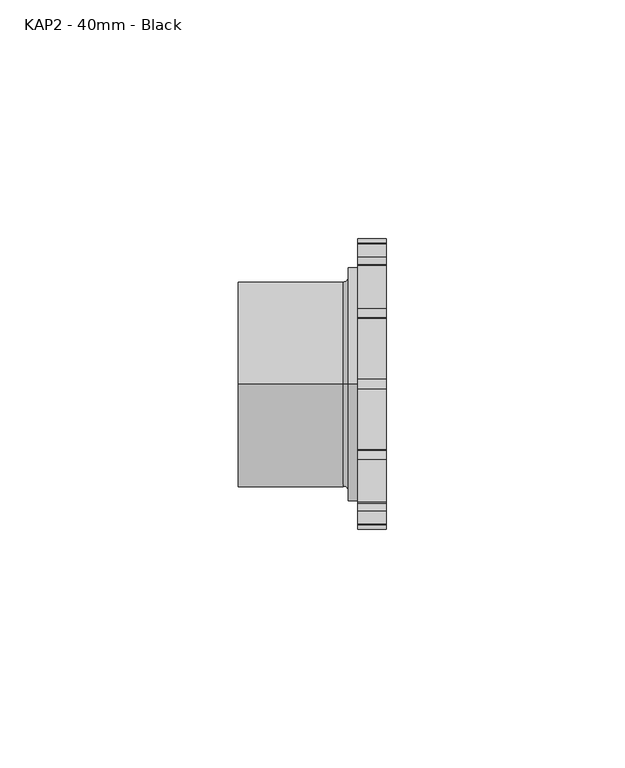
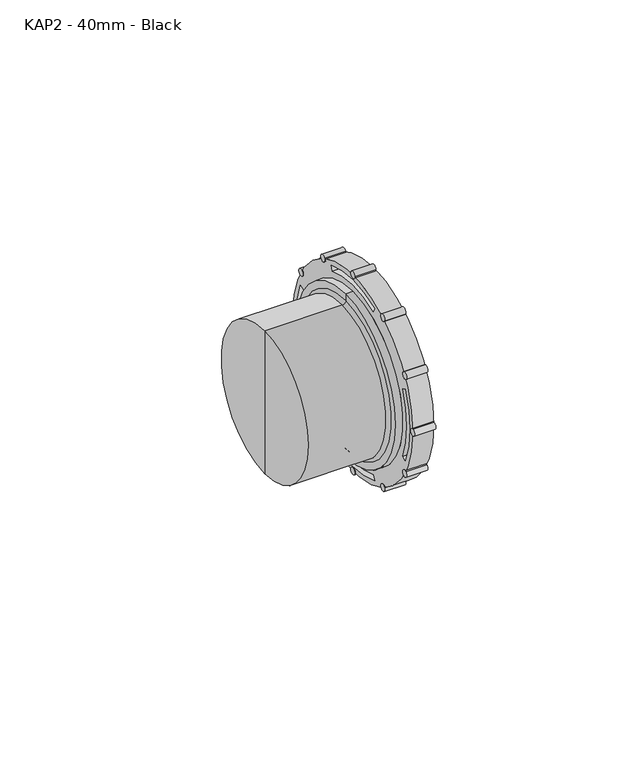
"""IFC4 building model written with IfcOpenShell, lengths in millimetres: pipe fitting geometry, MarleyPlumbingAndDrainage_PipeFitting_AccessPlug : KAP2 - 40mm - Black."""

from ifc_helpers import new_model, si_unit, point, frame, frame_2d, origin, place, context, project, spatial, polyline, circle_curve, ellipse_curve, trimmed, segment, composite_curve, outline, extrude, source, transform, mapped, element, save
from ifc_brep_helpers import plane_surface, cylinder_surface, revolved_surface, advanced_brep


def kap2_40mm_black_465b1ba6(model_context):
    return source(origin(), model_context, "Body", "SolidModel", [
        extrude(outline(composite_curve([segment(trimmed(circle_curve(frame_2d((25.5477494, 14.75)), 1.0), [point((25.0477494, 15.6160254))], [point((26.0477494, 13.8839746))], False, "CARTESIAN"), True, "CONTINUOUS"), segment(trimmed(circle_curve(frame_2d((25.5477494, 14.75)), 1.0), [point((26.0477494, 13.8839746))], [point((25.0477494, 15.6160254))], False, "CARTESIAN"), True, "CONTINUOUS")], self_intersect=False)), frame((-330.6858175, 0.0, 0.0), z_axis=(1.0, 0.0, 0.0), x_axis=(0.0, 1.0, 0.0)), (0.0, 0.0, 1.0), 6.0),
        extrude(outline(composite_curve([segment(trimmed(circle_curve(frame_2d((29.5, 0.0)), 1.0), [point((29.5, 1.0))], [point((29.5, -1.0))], False, "CARTESIAN"), True, "CONTINUOUS"), segment(trimmed(circle_curve(frame_2d((29.5, 0.0)), 1.0), [point((29.5, -1.0))], [point((29.5, 1.0))], False, "CARTESIAN"), True, "CONTINUOUS")], self_intersect=False)), frame((-330.6858175, 0.0, 0.0), z_axis=(1.0, 0.0, 0.0), x_axis=(0.0, 1.0, 0.0)), (0.0, 0.0, 1.0), 6.0),
        extrude(outline(composite_curve([segment(trimmed(circle_curve(frame_2d((25.5477494, -14.75)), 1.0), [point((26.0477494, -13.8839746))], [point((25.0477494, -15.6160254))], False, "CARTESIAN"), True, "CONTINUOUS"), segment(trimmed(circle_curve(frame_2d((25.5477494, -14.75)), 1.0), [point((25.0477494, -15.6160254))], [point((26.0477494, -13.8839746))], False, "CARTESIAN"), True, "CONTINUOUS")], self_intersect=False)), frame((-330.6858175, 0.0, 0.0), z_axis=(1.0, 0.0, 0.0), x_axis=(0.0, 1.0, 0.0)), (0.0, 0.0, 1.0), 6.0),
        extrude(outline(composite_curve([segment(trimmed(circle_curve(frame_2d((14.75, -25.5477494)), 1.0), [point((15.6160254, -25.0477494))], [point((13.8839746, -26.0477494))], False, "CARTESIAN"), True, "CONTINUOUS"), segment(trimmed(circle_curve(frame_2d((14.75, -25.5477494)), 1.0), [point((13.8839746, -26.0477494))], [point((15.6160254, -25.0477494))], False, "CARTESIAN"), True, "CONTINUOUS")], self_intersect=False)), frame((-330.6858175, 0.0, 0.0), z_axis=(1.0, 0.0, 0.0), x_axis=(0.0, 1.0, 0.0)), (0.0, 0.0, 1.0), 6.0),
        extrude(outline(composite_curve([segment(trimmed(circle_curve(frame_2d((0.0, -29.5)), 1.0), [point((1.0, -29.5))], [point((-1.0, -29.5))], False, "CARTESIAN"), True, "CONTINUOUS"), segment(trimmed(circle_curve(frame_2d((0.0, -29.5)), 1.0), [point((-1.0, -29.5))], [point((1.0, -29.5))], False, "CARTESIAN"), True, "CONTINUOUS")], self_intersect=False)), frame((-330.6858175, 0.0, 0.0), z_axis=(1.0, 0.0, 0.0), x_axis=(0.0, 1.0, 0.0)), (0.0, 0.0, 1.0), 6.0),
        extrude(outline(composite_curve([segment(trimmed(circle_curve(frame_2d((-14.75, -25.5477494)), 1.0), [point((-13.8839746, -26.0477494))], [point((-15.6160254, -25.0477494))], False, "CARTESIAN"), True, "CONTINUOUS"), segment(trimmed(circle_curve(frame_2d((-14.75, -25.5477494)), 1.0), [point((-15.6160254, -25.0477494))], [point((-13.8839746, -26.0477494))], False, "CARTESIAN"), True, "CONTINUOUS")], self_intersect=False)), frame((-330.6858175, 0.0, 0.0), z_axis=(1.0, 0.0, 0.0), x_axis=(0.0, 1.0, 0.0)), (0.0, 0.0, 1.0), 6.0),
        extrude(outline(composite_curve([segment(trimmed(circle_curve(frame_2d((-25.5477494, -14.75)), 1.0), [point((-25.0477494, -15.6160254))], [point((-26.0477494, -13.8839746))], False, "CARTESIAN"), True, "CONTINUOUS"), segment(trimmed(circle_curve(frame_2d((-25.5477494, -14.75)), 1.0), [point((-26.0477494, -13.8839746))], [point((-25.0477494, -15.6160254))], False, "CARTESIAN"), True, "CONTINUOUS")], self_intersect=False)), frame((-330.6858175, 0.0, 0.0), z_axis=(1.0, 0.0, 0.0), x_axis=(0.0, 1.0, 0.0)), (0.0, 0.0, 1.0), 6.0),
        extrude(outline(composite_curve([segment(trimmed(circle_curve(frame_2d((-29.5, 0.0)), 1.0), [point((-29.5, -1.0))], [point((-29.5, 1.0))], False, "CARTESIAN"), True, "CONTINUOUS"), segment(trimmed(circle_curve(frame_2d((-29.5, 0.0)), 1.0), [point((-29.5, 1.0))], [point((-29.5, -1.0))], False, "CARTESIAN"), True, "CONTINUOUS")], self_intersect=False)), frame((-330.6858175, 0.0, 0.0), z_axis=(1.0, 0.0, 0.0), x_axis=(0.0, 1.0, 0.0)), (0.0, 0.0, 1.0), 6.0),
        extrude(outline(composite_curve([segment(trimmed(circle_curve(frame_2d((-25.5477494, 14.75)), 1.0), [point((-26.0477494, 13.8839746))], [point((-25.0477494, 15.6160254))], False, "CARTESIAN"), True, "CONTINUOUS"), segment(trimmed(circle_curve(frame_2d((-25.5477494, 14.75)), 1.0), [point((-25.0477494, 15.6160254))], [point((-26.0477494, 13.8839746))], False, "CARTESIAN"), True, "CONTINUOUS")], self_intersect=False)), frame((-330.6858175, 0.0, 0.0), z_axis=(1.0, 0.0, 0.0), x_axis=(0.0, 1.0, 0.0)), (0.0, 0.0, 1.0), 6.0),
        extrude(outline(composite_curve([segment(trimmed(circle_curve(frame_2d((-14.75, 25.5477494)), 1.0), [point((-15.6160254, 25.0477494))], [point((-13.8839746, 26.0477494))], False, "CARTESIAN"), True, "CONTINUOUS"), segment(trimmed(circle_curve(frame_2d((-14.75, 25.5477494)), 1.0), [point((-13.8839746, 26.0477494))], [point((-15.6160254, 25.0477494))], False, "CARTESIAN"), True, "CONTINUOUS")], self_intersect=False)), frame((-330.6858175, 0.0, 0.0), z_axis=(1.0, 0.0, 0.0), x_axis=(0.0, 1.0, 0.0)), (0.0, 0.0, 1.0), 6.0),
        extrude(outline(composite_curve([segment(trimmed(circle_curve(frame_2d((14.75, 25.5477494)), 1.0), [point((13.8839746, 26.0477494))], [point((15.6160254, 25.0477494))], False, "CARTESIAN"), True, "CONTINUOUS"), segment(trimmed(circle_curve(frame_2d((14.75, 25.5477494)), 1.0), [point((15.6160254, 25.0477494))], [point((13.8839746, 26.0477494))], False, "CARTESIAN"), True, "CONTINUOUS")], self_intersect=False)), frame((-330.6858175, 0.0, 0.0), z_axis=(1.0, 0.0, 0.0), x_axis=(0.0, 1.0, 0.0)), (0.0, 0.0, 1.0), 6.0),
        extrude(outline(composite_curve([segment(trimmed(circle_curve(frame_2d((0.0, 29.5)), 1.0), [point((-1.0, 29.5))], [point((1.0, 29.5))], False, "CARTESIAN"), True, "CONTINUOUS"), segment(trimmed(circle_curve(frame_2d((0.0, 29.5)), 1.0), [point((1.0, 29.5))], [point((-1.0, 29.5))], False, "CARTESIAN"), True, "CONTINUOUS")], self_intersect=False)), frame((-330.6858175, 0.0, 0.0), z_axis=(1.0, 0.0, 0.0), x_axis=(0.0, 1.0, 0.0)), (0.0, 0.0, 1.0), 6.0),
        advanced_brep(
        [(-324.6858175, -29.5, 0.0), (-324.6858175, 29.5, 0.0), (-324.6858175, -10.7151361, -25.8686269), (-324.6858175, -10.141111, -24.4828076), (-324.6858175, 10.141111, -24.4828076), (-324.6858175, 10.7151361, -25.8686269), (-324.6858175, 25.8686269, -10.7151361), (-324.6858175, 24.4828076, -10.141111), (-324.6858175, 24.4828076, 10.141111), (-324.6858175, 25.8686269, 10.7151361), (-324.6858175, -24.4828076, 10.141111), (-324.6858175, -24.4828076, -10.141111), (-324.6858175, -25.8686269, -10.7151361), (-324.6858175, -25.8686269, 10.7151361), (-324.6858175, -10.141111, 24.4828076), (-324.6858175, -10.7151361, 25.8686269), (-324.6858175, 10.7151361, 25.8686269), (-324.6858175, 10.141111, 24.4828076), (-330.6858175, -29.5, 0.0), (-330.6858175, 29.5, 0.0), (-330.6858175, 0.0, -24.5), (-330.6858175, 0.0, 24.5), (-330.6858175, -10.141111, -24.4828076), (-330.6858175, -10.7151361, -25.8686269), (-330.6858175, 10.7151361, -25.8686269), (-330.6858175, 10.141111, -24.4828076), (-330.6858175, 24.4828076, -10.141111), (-330.6858175, 25.8686269, -10.7151361), (-330.6858175, 25.8686269, 10.7151361), (-330.6858175, 24.4828076, 10.141111), (-330.6858175, -24.4828076, -10.141111), (-330.6858175, -24.4828076, 10.141111), (-330.6858175, -25.8686269, 10.7151361), (-330.6858175, -25.8686269, -10.7151361), (-330.6858175, -10.7151361, 25.8686269), (-330.6858175, -10.141111, 24.4828076), (-330.6858175, 10.141111, 24.4828076), (-330.6858175, 10.7151361, 25.8686269), (-332.6858175, 0.0, -24.5), (-332.6858175, 0.0, 24.5), (-332.6858175, 0.0, -22.5), (-332.6858175, 0.0, 22.5), (-333.6858175, 0.0, -21.5), (-333.6858175, 0.0, 21.5), (-355.6858175, 0.0, -21.5), (-355.6858175, 0.0, 21.5), (-355.6858175, 0.0, 0.0)],
        [
            (0, 1, circle_curve(frame((-324.6858175, 0.0, 0.0), z_axis=(1.0, 0.0, 0.0), x_axis=(0.0, 1.0, 0.0)), 29.5)),
            (1, 0, circle_curve(frame((-324.6858175, 0.0, 0.0), z_axis=(1.0, 0.0, 0.0), x_axis=(0.0, 1.0, 0.0)), 29.5)),
            (2, 3),
            (3, 4, circle_curve(frame((-324.6858175, 0.0, 0.0), z_axis=(1.0, 0.0, 0.0), x_axis=(0.0, 1.0, 0.0)), 26.5)),
            (4, 5),
            (5, 2, circle_curve(frame((-324.6858175, 0.0, 0.0), z_axis=(-1.0, 0.0, 0.0), x_axis=(0.0, 1.0, 0.0)), 28.0)),
            (6, 7),
            (7, 8, circle_curve(frame((-324.6858175, 0.0, 0.0), z_axis=(1.0, 0.0, 0.0), x_axis=(0.0, 1.0, 0.0)), 26.5)),
            (8, 9),
            (9, 6, circle_curve(frame((-324.6858175, 0.0, 0.0), z_axis=(-1.0, 0.0, 0.0), x_axis=(0.0, 1.0, 0.0)), 28.0)),
            (10, 11, circle_curve(frame((-324.6858175, 0.0, 0.0), z_axis=(1.0, 0.0, 0.0), x_axis=(0.0, 1.0, 0.0)), 26.5)),
            (11, 12),
            (12, 13, circle_curve(frame((-324.6858175, 0.0, 0.0), z_axis=(-1.0, 0.0, 0.0), x_axis=(0.0, 1.0, 0.0)), 28.0)),
            (13, 10),
            (14, 15),
            (15, 16, circle_curve(frame((-324.6858175, 0.0, 0.0), z_axis=(-1.0, 0.0, 0.0), x_axis=(0.0, 1.0, 0.0)), 28.0)),
            (16, 17),
            (17, 14, circle_curve(frame((-324.6858175, 0.0, 0.0), z_axis=(1.0, 0.0, 0.0), x_axis=(0.0, 1.0, 0.0)), 26.5)),
            (18, 19, circle_curve(frame((-330.6858175, 0.0, 0.0), z_axis=(-1.0, 0.0, 0.0), x_axis=(0.0, 1.0, 0.0)), 29.5)),
            (19, 18, circle_curve(frame((-330.6858175, 0.0, 0.0), z_axis=(-1.0, 0.0, 0.0), x_axis=(0.0, 1.0, 0.0)), 29.5)),
            (20, 21, circle_curve(frame((-330.6858175, 0.0, 0.0), z_axis=(1.0, 0.0, 0.0), x_axis=(0.0, 0.0, 1.0)), 24.5)),
            (21, 20, circle_curve(frame((-330.6858175, 0.0, 0.0), z_axis=(1.0, 0.0, 0.0), x_axis=(0.0, 0.0, 1.0)), 24.5)),
            (22, 23),
            (23, 24, circle_curve(frame((-330.6858175, 0.0, 0.0), z_axis=(1.0, 0.0, 0.0), x_axis=(0.0, 1.0, 0.0)), 28.0)),
            (24, 25),
            (25, 22, circle_curve(frame((-330.6858175, 0.0, 0.0), z_axis=(-1.0, 0.0, 0.0), x_axis=(0.0, 1.0, 0.0)), 26.5)),
            (26, 27),
            (27, 28, circle_curve(frame((-330.6858175, 0.0, 0.0), z_axis=(1.0, 0.0, 0.0), x_axis=(0.0, 1.0, 0.0)), 28.0)),
            (28, 29),
            (29, 26, circle_curve(frame((-330.6858175, 0.0, 0.0), z_axis=(-1.0, 0.0, 0.0), x_axis=(0.0, 1.0, 0.0)), 26.5)),
            (30, 31, circle_curve(frame((-330.6858175, 0.0, 0.0), z_axis=(-1.0, 0.0, 0.0), x_axis=(0.0, 1.0, 0.0)), 26.5)),
            (31, 32),
            (32, 33, circle_curve(frame((-330.6858175, 0.0, 0.0), z_axis=(1.0, 0.0, 0.0), x_axis=(0.0, 1.0, 0.0)), 28.0)),
            (33, 30),
            (34, 35),
            (35, 36, circle_curve(frame((-330.6858175, 0.0, 0.0), z_axis=(-1.0, 0.0, 0.0), x_axis=(0.0, 1.0, 0.0)), 26.5)),
            (36, 37),
            (37, 34, circle_curve(frame((-330.6858175, 0.0, 0.0), z_axis=(1.0, 0.0, 0.0), x_axis=(0.0, 1.0, 0.0)), 28.0)),
            (0, 18),
            (19, 1),
            (2, 23),
            (22, 3),
            (5, 24),
            (4, 25),
            (6, 27),
            (26, 7),
            (9, 28),
            (8, 29),
            (10, 31),
            (30, 11),
            (13, 32),
            (12, 33),
            (14, 35),
            (34, 15),
            (17, 36),
            (16, 37),
            (38, 39, circle_curve(frame((-332.6858175, 0.0, 0.0), z_axis=(1.0, 0.0, 0.0), x_axis=(0.0, 0.0, 1.0)), 24.5)),
            (39, 21),
            (20, 38),
            (39, 38, circle_curve(frame((-332.6858175, 0.0, 0.0), z_axis=(1.0, 0.0, 0.0), x_axis=(0.0, 0.0, 1.0)), 24.5)),
            (38, 40),
            (40, 41, circle_curve(frame((-332.6858175, 0.0, 0.0), z_axis=(1.0, 0.0, 0.0), x_axis=(0.0, 0.0, 1.0)), 22.5)),
            (41, 39),
            (41, 40, circle_curve(frame((-332.6858175, 0.0, 0.0), z_axis=(1.0, 0.0, 0.0), x_axis=(0.0, 0.0, 1.0)), 22.5)),
            (40, 42, circle_curve(frame((-333.6858175, 0.0, -22.5), z_axis=(0.0, -1.0, 0.0), x_axis=(1.0, 0.0, 0.0)), 1.0)),
            (42, 43, circle_curve(frame((-333.6858175, 0.0, 0.0), z_axis=(1.0, 0.0, 0.0), x_axis=(0.0, 0.0, 1.0)), 21.5)),
            (43, 41, circle_curve(frame((-333.6858175, 0.0, 22.5), z_axis=(0.0, -1.0, 0.0), x_axis=(1.0, 0.0, 0.0)), 1.0)),
            (43, 42, circle_curve(frame((-333.6858175, 0.0, 0.0), z_axis=(1.0, 0.0, 0.0), x_axis=(0.0, 0.0, 1.0)), 21.5)),
            (42, 44),
            (44, 45, circle_curve(frame((-355.6858175, 0.0, 0.0), z_axis=(1.0, 0.0, 0.0), x_axis=(0.0, 0.0, 1.0)), 21.5)),
            (45, 43),
            (45, 44, circle_curve(frame((-355.6858175, 0.0, 0.0), z_axis=(1.0, 0.0, 0.0), x_axis=(0.0, 0.0, 1.0)), 21.5)),
            (44, 46),
            (46, 45),
        ],
        [
            plane_surface(frame((-324.6858175, 29.5, 0.0), z_axis=(1.0, 0.0, 0.0), x_axis=(0.0, 0.0, 1.0))),
            plane_surface(frame((-330.6858175, 29.5, 0.0), z_axis=(-1.0, 0.0, 0.0), x_axis=(0.0, 0.0, -1.0))),
            cylinder_surface(frame((-330.6858175, 0.0, 0.0), z_axis=(1.0, 0.0, 0.0), x_axis=(0.0, 1.0, 0.0)), 29.5),
            plane_surface(frame((-324.6858175, -10.141111, -24.4828076), z_axis=(0.0, 0.9238795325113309, -0.38268343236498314), x_axis=(-1.0, 0.0, 0.0))),
            revolved_surface(polyline([(-324.6858175, 28.0, 0.0), (-330.6858175, 28.0, 0.0)]), (-330.6858175, 0.0, 0.0), (1.0, 0.0, 0.0)),
            plane_surface(frame((-324.6858175, 10.7151361, -25.8686269), z_axis=(0.0, -0.923879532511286, -0.38268343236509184), x_axis=(-1.0, 0.0, 0.0))),
            cylinder_surface(frame((-330.6858175, 0.0, 0.0), z_axis=(-1.0, 0.0, 0.0), x_axis=(0.0, 1.0, 0.0)), 26.5),
            plane_surface(frame((-324.6858175, 24.4828076, -10.141111), z_axis=(0.0, 0.38268343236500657, 0.9238795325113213), x_axis=(-1.0, 0.0, 0.0))),
            plane_surface(frame((-324.6858175, 25.8686269, 10.7151361), z_axis=(0.0, 0.38268343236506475, -0.9238795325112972), x_axis=(-1.0, 0.0, 0.0))),
            plane_surface(frame((-324.6858175, -24.4828076, 10.141111), z_axis=(0.0, -0.3826834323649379, -0.9238795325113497), x_axis=(-1.0, 0.0, 0.0))),
            plane_surface(frame((-324.6858175, -25.8686269, -10.7151361), z_axis=(0.0, -0.38268343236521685, 0.9238795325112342), x_axis=(-1.0, 0.0, 0.0))),
            plane_surface(frame((-324.6858175, -10.7151361, 25.8686269), z_axis=(0.0, 0.9238795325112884, 0.38268343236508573), x_axis=(-1.0, 0.0, 0.0))),
            plane_surface(frame((-324.6858175, 10.141111, 24.4828076), z_axis=(0.0, -0.9238795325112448, 0.38268343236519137), x_axis=(-1.0, 0.0, 0.0))),
            cylinder_surface(frame((-1514.0299635, 0.0, 0.0), z_axis=(-1.0, 0.0, 0.0), x_axis=(0.0, 0.0, 1.0)), 24.5),
            plane_surface(frame((-332.6858175, 0.0, 0.0), z_axis=(-1.0, 0.0, 0.0), x_axis=(0.0, 0.0, 1.0))),
            revolved_surface(trimmed(ellipse_curve(frame((-333.6858175, 0.0, 22.5), z_axis=(0.0, 1.0, 0.0), x_axis=(1.0, 0.0, 0.0)), 1.0, 1.0), [point((-332.6858175, 0.0, 22.5))], [point((-333.6858175, 0.0, 21.5))], True, "CARTESIAN"), (-1514.0299635, 0.0, 0.0), (-1.0, 0.0, 0.0)),
            cylinder_surface(frame((-1514.0299635, 0.0, 0.0), z_axis=(-1.0, 0.0, 0.0), x_axis=(0.0, 0.0, 1.0)), 21.5),
            plane_surface(frame((-355.6858175, 0.0, 0.0), z_axis=(-1.0, 0.0, 0.0), x_axis=(0.0, 0.0, 1.0))),
        ],
        [
            (0, [[1, 2], [3, 4, 5, 6], [7, 8, 9, 10], [11, 12, 13, 14], [15, 16, 17, 18]]),
            (1, [[19, 20], [21, 22], [23, 24, 25, 26], [27, 28, 29, 30], [31, 32, 33, 34], [35, 36, 37, 38]]),
            (2, [[-1, 39, -20, 40]]),
            (2, [[-2, -40, -19, -39]]),
            (3, [[41, -23, 42, -3]]),
            (4, [[-41, -6, 43, -24]]),
            (5, [[-43, -5, 44, -25]]),
            (6, [[-42, -26, -44, -4]]),
            (7, [[45, -27, 46, -7]]),
            (4, [[-45, -10, 47, -28]]),
            (8, [[-47, -9, 48, -29]]),
            (6, [[-46, -30, -48, -8]]),
            (6, [[49, -31, 50, -11]]),
            (9, [[-49, -14, 51, -32]]),
            (4, [[-51, -13, 52, -33]]),
            (10, [[-50, -34, -52, -12]]),
            (11, [[53, -35, 54, -15]]),
            (6, [[-53, -18, 55, -36]]),
            (12, [[-55, -17, 56, -37]]),
            (4, [[-54, -38, -56, -16]]),
            (13, [[57, 58, -21, 59]]),
            (13, [[-58, 60, -59, -22]]),
            (14, [[-57, 61, 62, 63]]),
            (14, [[-60, -63, 64, -61]]),
            (15, [[-62, 65, 66, 67]]),
            (15, [[-64, -67, 68, -65]]),
            (16, [[-66, 69, 70, 71]]),
            (16, [[-68, -71, 72, -69]]),
            (17, [[-70, 73, 74]]),
            (17, [[-72, -74, -73]]),
        ],
    ),
    ])


if __name__ == "__main__":
    model = new_model("IFC4")
    model_context = context("Model", 3, world=origin())
    ifc_project = project(units=[si_unit("LENGTHUNIT", "METRE", prefix="MILLI")], contexts=[model_context])
    site = spatial("IfcSite", under=ifc_project)
    building = spatial("IfcBuilding", under=site)
    placement = place(None, origin())
    kap2_40mm_black_shape = kap2_40mm_black_465b1ba6(model_context)
    element("IfcPipeFitting", 1, ObjectType="MarleyPlumbingAndDrainage_PipeFitting_AccessPlug : KAP2 - 40mm - Black", at=placement, inside=building, context=model_context, shape_type="MappedRepresentation", body=[
        mapped(kap2_40mm_black_shape, transform((0.0, 0.0, 0.0), x_axis=(1.0, 0.0, 0.0), y_axis=(0.0, 1.0, 0.0), z_axis=(0.0, 0.0, 1.0))),
    ])
    save(model, "model.ifc")
